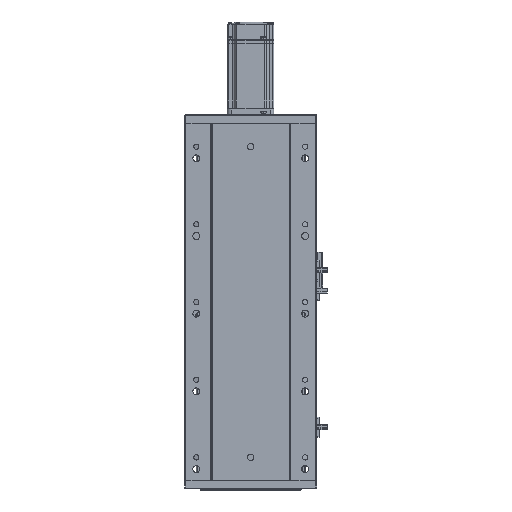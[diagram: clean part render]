
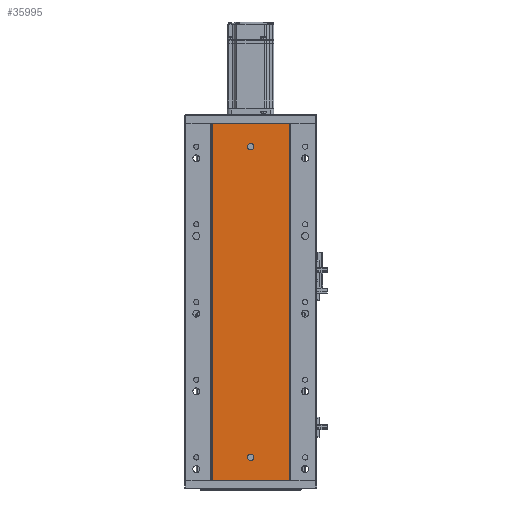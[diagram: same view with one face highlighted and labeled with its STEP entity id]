
A CAD part, front view. The second image highlights one B-rep face of the part: STEP entity #35995.
In plain terms, the highlighted planar face has unit normal (0, -1, 0).
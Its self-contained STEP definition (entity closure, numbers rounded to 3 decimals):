
#16646 = AXIS2_PLACEMENT_3D ( 'NONE', #19422, #19424, #19431 ) ;
#16653 = AXIS2_PLACEMENT_3D ( 'NONE', #19435, #19338, #19388 ) ;
#18945 = AXIS2_PLACEMENT_3D ( 'NONE', #45328, #45323, #45331 ) ;
#18959 = AXIS2_PLACEMENT_3D ( 'NONE', #45522, #45535, #45544 ) ;
#19331 = CARTESIAN_POINT ( 'NONE',  ( 86.97, 79.476, 153.333 ) ) ;
#19338 = DIRECTION ( 'NONE',  ( 0., -1., 0. ) ) ;
#19341 = CARTESIAN_POINT ( 'NONE',  ( 86.97, 79.476, 460. ) ) ;
#19348 = CARTESIAN_POINT ( 'NONE',  ( 86.97, 79.476, 306.667 ) ) ;
#19382 = CARTESIAN_POINT ( 'NONE',  ( 86.97, 79.476, 0. ) ) ;
#19388 = DIRECTION ( 'NONE',  ( 0., 0., -1. ) ) ;
#19422 = CARTESIAN_POINT ( 'NONE',  ( 136.47, 79.476, 430. ) ) ;
#19424 = DIRECTION ( 'NONE',  ( 0., -1., 0. ) ) ;
#19431 = DIRECTION ( 'NONE',  ( 0., 0., -1. ) ) ;
#19435 = CARTESIAN_POINT ( 'NONE',  ( 136.47, 79.476, 30. ) ) ;
#19463 = CARTESIAN_POINT ( 'NONE',  ( 0., 79.476, 460. ) ) ;
#19520 = DIRECTION ( 'NONE',  ( 1., 0., 0. ) ) ;
#19598 = CARTESIAN_POINT ( 'NONE',  ( 185.97, 79.476, 306.667 ) ) ;
#19610 = CARTESIAN_POINT ( 'NONE',  ( 185.97, 79.476, 0. ) ) ;
#19637 = CARTESIAN_POINT ( 'NONE',  ( 185.97, 79.476, 460. ) ) ;
#19690 = CARTESIAN_POINT ( 'NONE',  ( 185.97, 79.476, 153.333 ) ) ;
#19715 = DIRECTION ( 'NONE',  ( 1., 0., 0. ) ) ;
#19764 = CARTESIAN_POINT ( 'NONE',  ( 0., 79.476, 0. ) ) ;
#20636 = CARTESIAN_POINT ( 'NONE',  ( 185.97, 79.476, 0. ) ) ;
#20729 = CARTESIAN_POINT ( 'NONE',  ( 86.97, 79.476, 0. ) ) ;
#20768 = CARTESIAN_POINT ( 'NONE',  ( 185.97, 79.476, 460. ) ) ;
#20809 = CARTESIAN_POINT ( 'NONE',  ( 86.97, 79.476, 460. ) ) ;
#23241 = CARTESIAN_POINT ( 'NONE',  ( 136.47, 79.476, 26. ) ) ;
#23244 = CARTESIAN_POINT ( 'NONE',  ( 136.47, 79.476, 34. ) ) ;
#23250 = CARTESIAN_POINT ( 'NONE',  ( 136.47, 79.476, 426. ) ) ;
#23261 = CARTESIAN_POINT ( 'NONE',  ( 136.47, 79.476, 434. ) ) ;
#23460 = LINE ( 'NONE', #19764, #23478 ) ;
#23478 = VECTOR ( 'NONE', #19715, 1000. ) ;
#24545 = CIRCLE ( 'NONE', #16653, 4. ) ;
#24576 = LINE ( 'NONE', #19463, #24587 ) ;
#24587 = VECTOR ( 'NONE', #19520, 1000. ) ;
#24596 = CIRCLE ( 'NONE', #16646, 4. ) ;
#25610 = VERTEX_POINT ( 'NONE', #20636 ) ;
#25612 = VERTEX_POINT ( 'NONE', #20729 ) ;
#25662 = VERTEX_POINT ( 'NONE', #20768 ) ;
#25668 = VERTEX_POINT ( 'NONE', #20809 ) ;
#27072 = B_SPLINE_CURVE_WITH_KNOTS ( 'NONE', 3,
 ( #19341, #19348, #19331, #19382 ),
 .UNSPECIFIED., .F., .F.,
 ( 4, 4 ),
 ( 0., 1. ),
 .UNSPECIFIED. ) ;
#27091 = B_SPLINE_CURVE_WITH_KNOTS ( 'NONE', 3,
 ( #19637, #19598, #19690, #19610 ),
 .UNSPECIFIED., .F., .F.,
 ( 4, 4 ),
 ( 0., 1. ),
 .UNSPECIFIED. ) ;
#35995 = ADVANCED_FACE ( 'NONE', ( #53652, #53636, #53647 ), #48988, .F. ) ;
#39276 = EDGE_LOOP ( 'NONE', ( #50013, #50069, #50110, #50067 ) ) ;
#39290 = EDGE_LOOP ( 'NONE', ( #50065, #50028 ) ) ;
#39312 = EDGE_LOOP ( 'NONE', ( #50103, #49998 ) ) ;
#42981 = CIRCLE ( 'NONE', #18945, 4. ) ;
#45323 = DIRECTION ( 'NONE',  ( 0., -1., 0. ) ) ;
#45328 = CARTESIAN_POINT ( 'NONE',  ( 136.47, 79.476, 30. ) ) ;
#45331 = DIRECTION ( 'NONE',  ( 0., 0., -1. ) ) ;
#45522 = CARTESIAN_POINT ( 'NONE',  ( 136.47, 79.476, 430. ) ) ;
#45535 = DIRECTION ( 'NONE',  ( 0., -1., 0. ) ) ;
#45544 = DIRECTION ( 'NONE',  ( 0., 0., -1. ) ) ;
#46153 = CIRCLE ( 'NONE', #18959, 4. ) ;
#48523 = DIRECTION ( 'NONE',  ( 0., 0., 1. ) ) ;
#48988 = PLANE ( 'NONE',  #58213 ) ;
#49016 = CARTESIAN_POINT ( 'NONE',  ( 0., 79.476, 460. ) ) ;
#49018 = DIRECTION ( 'NONE',  ( 0., 1., 0. ) ) ;
#49491 = VERTEX_POINT ( 'NONE', #23241 ) ;
#49494 = VERTEX_POINT ( 'NONE', #23250 ) ;
#49501 = VERTEX_POINT ( 'NONE', #23244 ) ;
#49529 = VERTEX_POINT ( 'NONE', #23261 ) ;
#49998 = ORIENTED_EDGE ( 'NONE', *, *, #56937, .F. ) ;
#50013 = ORIENTED_EDGE ( 'NONE', *, *, #51164, .T. ) ;
#50028 = ORIENTED_EDGE ( 'NONE', *, *, #57076, .F. ) ;
#50065 = ORIENTED_EDGE ( 'NONE', *, *, #51047, .F. ) ;
#50067 = ORIENTED_EDGE ( 'NONE', *, *, #51040, .T. ) ;
#50069 = ORIENTED_EDGE ( 'NONE', *, *, #51129, .F. ) ;
#50103 = ORIENTED_EDGE ( 'NONE', *, *, #51021, .F. ) ;
#50110 = ORIENTED_EDGE ( 'NONE', *, *, #51089, .F. ) ;
#51021 = EDGE_CURVE ( 'NONE', #49491, #49501, #24545, .T. ) ;
#51040 = EDGE_CURVE ( 'NONE', #25668, #25612, #27072, .T. ) ;
#51047 = EDGE_CURVE ( 'NONE', #49494, #49529, #24596, .T. ) ;
#51089 = EDGE_CURVE ( 'NONE', #25668, #25662, #24576, .T. ) ;
#51129 = EDGE_CURVE ( 'NONE', #25662, #25610, #27091, .T. ) ;
#51164 = EDGE_CURVE ( 'NONE', #25612, #25610, #23460, .T. ) ;
#53636 = FACE_BOUND ( 'NONE', #39312, .T. ) ;
#53647 = FACE_OUTER_BOUND ( 'NONE', #39276, .T. ) ;
#53652 = FACE_BOUND ( 'NONE', #39290, .T. ) ;
#56937 = EDGE_CURVE ( 'NONE', #49501, #49491, #42981, .T. ) ;
#57076 = EDGE_CURVE ( 'NONE', #49529, #49494, #46153, .T. ) ;
#58213 = AXIS2_PLACEMENT_3D ( 'NONE', #49016, #49018, #48523 ) ;
